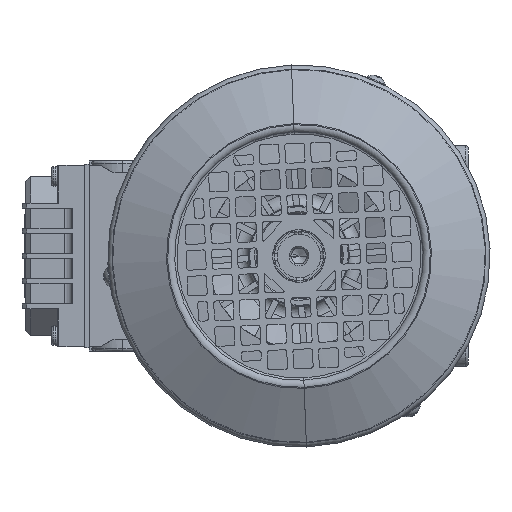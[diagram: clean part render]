
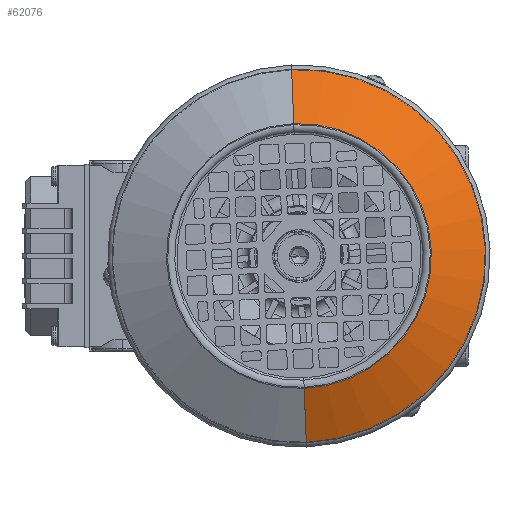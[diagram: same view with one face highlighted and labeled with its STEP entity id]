
A CAD part, left-side view. The second image highlights one B-rep face of the part: STEP entity #62076.
In plain terms, the highlighted conical face has half-angle 64 degrees and reference radius 76.315 mm.
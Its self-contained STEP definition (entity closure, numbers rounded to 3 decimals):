
#353 = VERTEX_POINT ( 'NONE', #18137 ) ;
#853 = DIRECTION ( 'NONE',  ( -1., 0., 0. ) ) ;
#3861 = DIRECTION ( 'NONE',  ( 0., 1., 0. ) ) ;
#8734 = ORIENTED_EDGE ( 'NONE', *, *, #95558, .T. ) ;
#11538 = VERTEX_POINT ( 'NONE', #69290 ) ;
#15414 = VERTEX_POINT ( 'NONE', #67277 ) ;
#17595 = CARTESIAN_POINT ( 'NONE',  ( 0., 0.253, 0. ) ) ;
#18137 = CARTESIAN_POINT ( 'NONE',  ( 76.315, 11.115, 0. ) ) ;
#20141 = DIRECTION ( 'NONE',  ( 0., 1., 0. ) ) ;
#20255 = CONICAL_SURFACE ( 'NONE', #54459, 76.315, 1.117 ) ;
#21215 = CARTESIAN_POINT ( 'NONE',  ( 76.315, 11.115, 0. ) ) ;
#22797 = CIRCLE ( 'NONE', #75697, 54.045 ) ;
#25378 = DIRECTION ( 'NONE',  ( -1., 0., 0. ) ) ;
#27606 = CARTESIAN_POINT ( 'NONE',  ( 54.045, 0.253, 0. ) ) ;
#29181 = DIRECTION ( 'NONE',  ( 0., 1., 0. ) ) ;
#37923 = CARTESIAN_POINT ( 'NONE',  ( 0., 11.115, 0. ) ) ;
#46680 = AXIS2_PLACEMENT_3D ( 'NONE', #87861, #20141, #96080 ) ;
#48223 = VECTOR ( 'NONE', #55469, 1000. ) ;
#49507 = EDGE_LOOP ( 'NONE', ( #71499, #8734, #93562, #82446 ) ) ;
#53602 = EDGE_CURVE ( 'NONE', #15414, #11538, #64469, .T. ) ;
#54459 = AXIS2_PLACEMENT_3D ( 'NONE', #37923, #29181, #853 ) ;
#55469 = DIRECTION ( 'NONE',  ( 0.899, 0.438, 0. ) ) ;
#62076 = ADVANCED_FACE ( 'NONE', ( #88674 ), #20255, .T. ) ;
#64469 = LINE ( 'NONE', #94213, #90585 ) ;
#65815 = EDGE_CURVE ( 'NONE', #11538, #353, #94976, .T. ) ;
#65901 = DIRECTION ( 'NONE',  ( -0.899, 0.438, 0. ) ) ;
#66438 = VERTEX_POINT ( 'NONE', #27606 ) ;
#67277 = CARTESIAN_POINT ( 'NONE',  ( -54.045, 0.253, 0. ) ) ;
#69290 = CARTESIAN_POINT ( 'NONE',  ( -76.315, 11.115, 0. ) ) ;
#71499 = ORIENTED_EDGE ( 'NONE', *, *, #74203, .T. ) ;
#74203 = EDGE_CURVE ( 'NONE', #15414, #66438, #22797, .T. ) ;
#75697 = AXIS2_PLACEMENT_3D ( 'NONE', #17595, #3861, #25378 ) ;
#82446 = ORIENTED_EDGE ( 'NONE', *, *, #53602, .F. ) ;
#87861 = CARTESIAN_POINT ( 'NONE',  ( 0., 11.115, 0. ) ) ;
#87997 = LINE ( 'NONE', #21215, #48223 ) ;
#88674 = FACE_OUTER_BOUND ( 'NONE', #49507, .T. ) ;
#90585 = VECTOR ( 'NONE', #65901, 1000. ) ;
#93562 = ORIENTED_EDGE ( 'NONE', *, *, #65815, .F. ) ;
#94213 = CARTESIAN_POINT ( 'NONE',  ( -76.315, 11.115, 0. ) ) ;
#94976 = CIRCLE ( 'NONE', #46680, 76.315 ) ;
#95558 = EDGE_CURVE ( 'NONE', #66438, #353, #87997, .T. ) ;
#96080 = DIRECTION ( 'NONE',  ( -1., 0., 0. ) ) ;
